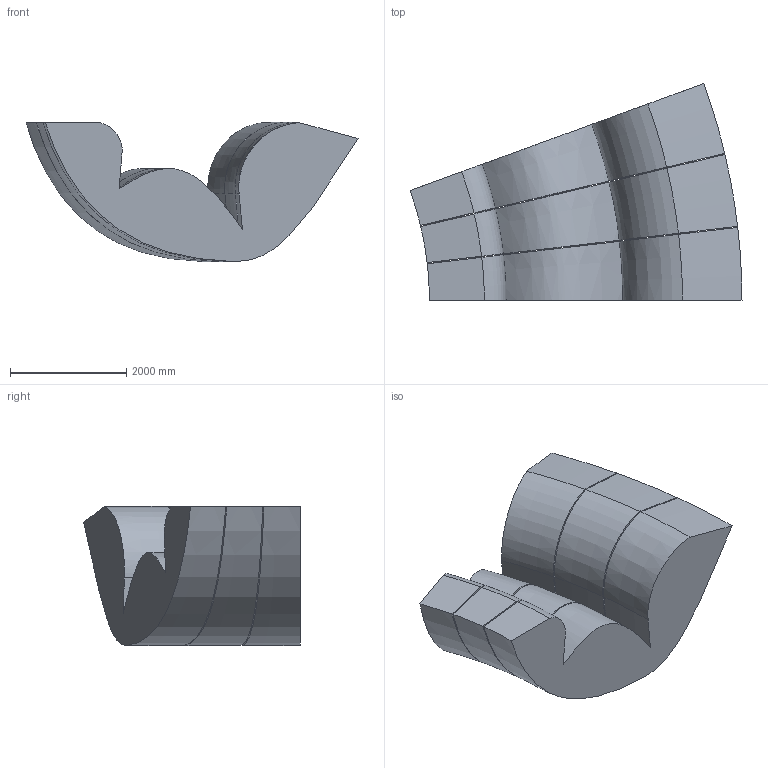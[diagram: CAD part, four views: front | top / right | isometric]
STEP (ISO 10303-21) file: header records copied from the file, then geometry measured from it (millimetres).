
FILE_DESCRIPTION(('FreeCAD Model'),'2;1');
FILE_NAME('Open CASCADE Shape Model','2026-10-11T08:36:59',('Bluemira'), ('Bluemira'),'Open CASCADE STEP processor 7.8','FreeCAD','Unknown');
FILE_SCHEMA(('AP242_MANAGED_MODEL_BASED_3D_ENGINEERING_MIM_LF. {1 0 10303 442 1 1 4 }'));
Length unit declared in the file: metre
Products named in the file (4): Unnamed; segment_0_1_1; segment_1_1_1; segment_2_1_1
Assembly tree (3 placements, depth 2):
  Unnamed
    segment_0_1_1
    segment_1_1_1
    segment_2_1_1
Bounding box: 5715.98 x 3730.34 x 2394.35 mm (x, y, z)
Volume: 19402244281.4 mm3; surface area: 85472105.1 mm2
Topology: 3 solids, 3 shells, 30 faces, 72 edges, 48 vertices
Faces by surface type: cone 9, plane 9, revolution 6, torus 6
Entity records: 14338 total; most frequent: CARTESIAN_POINT 13000, DIRECTION 200, ORIENTED_EDGE 144, PCURVE 144, DEFINITIONAL_REPRESENTATION 144, B_SPLINE_CURVE_WITH_KNOTS 108, EDGE_CURVE 72, SURFACE_CURVE 72
